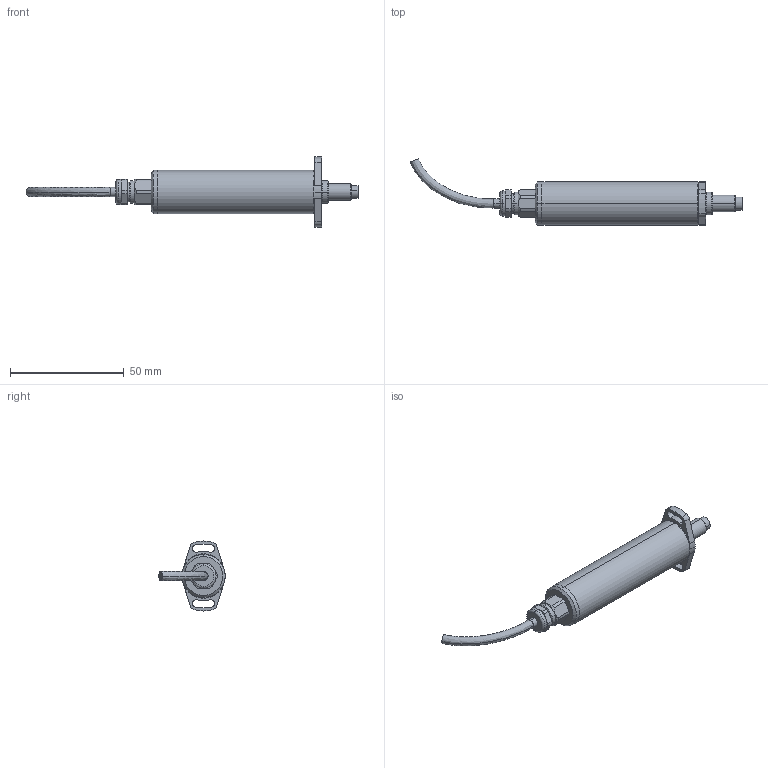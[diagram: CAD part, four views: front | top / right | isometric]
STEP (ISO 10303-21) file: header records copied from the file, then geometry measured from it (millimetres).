
FILE_DESCRIPTION (( 'STEP AP214' ), '1' );
FILE_NAME ('P118-5AL50N.STEP', '2025-04-10T10:32:31', ( '' ), ( '' ), 'SwSTEP 2.0', 'SolidWorks 2023', '' );
FILE_SCHEMA (( 'AUTOMOTIVE_DESIGN' ));
Length unit declared in the file: millimetre
Products named in the file (1): P118-5AL50N
Bounding box: 145.82 x 29.17 x 30.8 mm (x, y, z)
Surface area: 8206.3 mm2 (no closed solid volume)
Topology: 0 solids, 7 shells, 124 faces, 348 edges, 234 vertices
Faces by surface type: cylinder 58, plane 34, cone 22, torus 8, bspline 2
Entity records: 4428 total; most frequent: CARTESIAN_POINT 1167, DIRECTION 730, ORIENTED_EDGE 616, EDGE_CURVE 348, AXIS2_PLACEMENT_3D 295, VERTEX_POINT 234, CIRCLE 172, EDGE_LOOP 141
